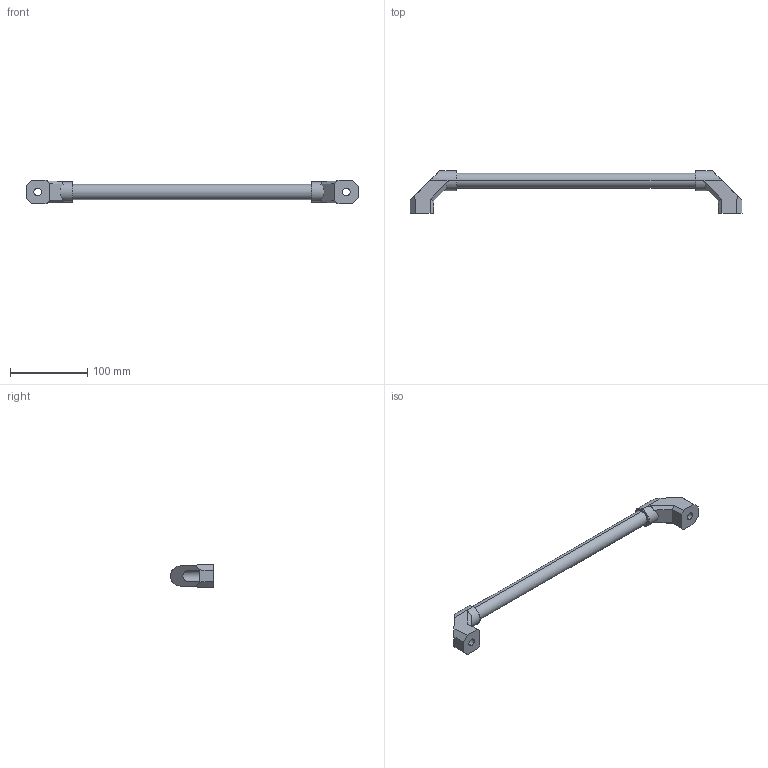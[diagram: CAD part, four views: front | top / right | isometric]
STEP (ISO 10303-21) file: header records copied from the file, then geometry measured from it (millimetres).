
FILE_DESCRIPTION (( 'STEP AP214' ), '1' );
FILE_NAME ('4.441.003.STEP', '2012-01-18T11:02:23', ( '£ukasz Cieæka' ), ( '' ), 'SwSTEP 2.0', 'SolidWorks 2010', '' );
FILE_SCHEMA (( 'AUTOMOTIVE_DESIGN' ));
Length unit declared in the file: millimetre
Products named in the file (1): 4.441.003
Bounding box: 430.4 x 55.4 x 31 mm (x, y, z)
Volume: 174595.2 mm3; surface area: 37888.7 mm2
Topology: 3 solids, 3 shells, 70 faces, 174 edges, 112 vertices
Faces by surface type: plane 54, cylinder 12, torus 4
Entity records: 2471 total; most frequent: CARTESIAN_POINT 387, ORIENTED_EDGE 348, DIRECTION 332, EDGE_CURVE 174, VECTOR 138, LINE 138, VERTEX_POINT 112, AXIS2_PLACEMENT_3D 97
